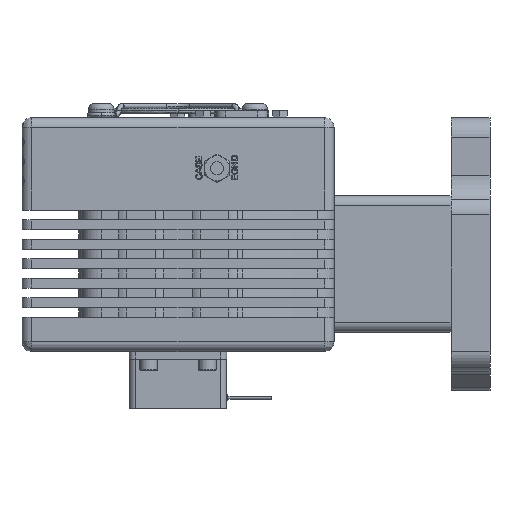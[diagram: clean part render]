
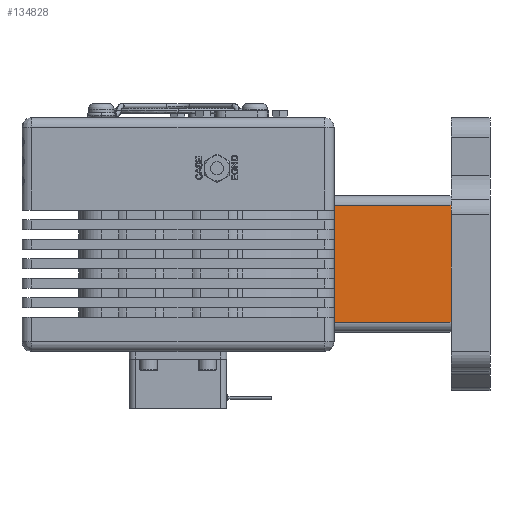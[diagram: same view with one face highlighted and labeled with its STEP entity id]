
A CAD part, left-side view. The second image highlights one B-rep face of the part: STEP entity #134828.
In plain terms, the highlighted planar face has unit normal (-1, 0, 0).
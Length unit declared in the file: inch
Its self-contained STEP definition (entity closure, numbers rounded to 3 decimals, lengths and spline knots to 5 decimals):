
#3828 = LINE ( 'NONE', #8033, #95618 ) ;
#6520 = CARTESIAN_POINT ( 'NONE',  ( -0.5, -3.5, -0.625 ) ) ;
#7134 = LINE ( 'NONE', #74177, #111746 ) ;
#8033 = CARTESIAN_POINT ( 'NONE',  ( -0.5, -3.5, 0.125 ) ) ;
#9599 = CARTESIAN_POINT ( 'NONE',  ( -0.5, -2.75, 0.875 ) ) ;
#9615 = DIRECTION ( 'NONE',  ( 1., 0., 0. ) ) ;
#10886 = ORIENTED_EDGE ( 'NONE', *, *, #91488, .F. ) ;
#23403 = VERTEX_POINT ( 'NONE', #6520 ) ;
#36109 = EDGE_LOOP ( 'NONE', ( #78643, #10886, #145361, #89416 ) ) ;
#36135 = LINE ( 'NONE', #9599, #124236 ) ;
#36917 = CARTESIAN_POINT ( 'NONE',  ( -0.5, -2., 0.875 ) ) ;
#45963 = AXIS2_PLACEMENT_3D ( 'NONE', #78393, #9615, #90003 ) ;
#55217 = FACE_OUTER_BOUND ( 'NONE', #36109, .T. ) ;
#58706 = VERTEX_POINT ( 'NONE', #83318 ) ;
#59906 = EDGE_CURVE ( 'NONE', #58706, #23403, #7134, .T. ) ;
#74177 = CARTESIAN_POINT ( 'NONE',  ( -0.5, -2.75, -0.625 ) ) ;
#74663 = CARTESIAN_POINT ( 'NONE',  ( -0.5, -3.5, 0.875 ) ) ;
#78393 = CARTESIAN_POINT ( 'NONE',  ( -0.5, -3.5, 0.875 ) ) ;
#78573 = EDGE_CURVE ( 'NONE', #134311, #23403, #3828, .T. ) ;
#78643 = ORIENTED_EDGE ( 'NONE', *, *, #142577, .F. ) ;
#82725 = VERTEX_POINT ( 'NONE', #36917 ) ;
#83318 = CARTESIAN_POINT ( 'NONE',  ( -0.5, -2., -0.625 ) ) ;
#89416 = ORIENTED_EDGE ( 'NONE', *, *, #78573, .F. ) ;
#89979 = DIRECTION ( 'NONE',  ( 0., -1., 0. ) ) ;
#90003 = DIRECTION ( 'NONE',  ( 0., 0., -1. ) ) ;
#91488 = EDGE_CURVE ( 'NONE', #58706, #82725, #147453, .T. ) ;
#95618 = VECTOR ( 'NONE', #99982, 39.37008 ) ;
#99982 = DIRECTION ( 'NONE',  ( 0., 0., -1. ) ) ;
#101082 = PLANE ( 'NONE',  #45963 ) ;
#111746 = VECTOR ( 'NONE', #142963, 39.37008 ) ;
#124236 = VECTOR ( 'NONE', #89979, 39.37008 ) ;
#125093 = CARTESIAN_POINT ( 'NONE',  ( -0.5, -2., 0.125 ) ) ;
#134311 = VERTEX_POINT ( 'NONE', #74663 ) ;
#134828 = ADVANCED_FACE ( 'NONE', ( #55217 ), #101082, .F. ) ;
#136598 = DIRECTION ( 'NONE',  ( 0., 0., 1. ) ) ;
#142577 = EDGE_CURVE ( 'NONE', #82725, #134311, #36135, .T. ) ;
#142963 = DIRECTION ( 'NONE',  ( 0., -1., 0. ) ) ;
#145361 = ORIENTED_EDGE ( 'NONE', *, *, #59906, .T. ) ;
#145750 = VECTOR ( 'NONE', #136598, 39.37008 ) ;
#147453 = LINE ( 'NONE', #125093, #145750 ) ;
